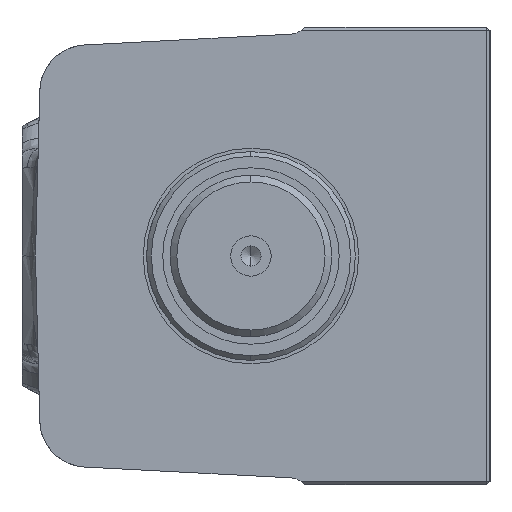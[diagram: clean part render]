
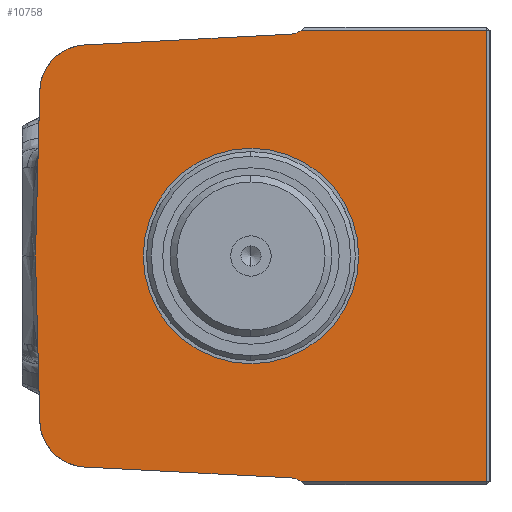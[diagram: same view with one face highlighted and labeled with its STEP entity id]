
A CAD part, left-side view. The second image highlights one B-rep face of the part: STEP entity #10758.
In plain terms, the highlighted planar face has unit normal (-1, 0, 0).
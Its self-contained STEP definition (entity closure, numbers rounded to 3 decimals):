
#47 = AXIS2_PLACEMENT_3D ( 'NONE', #8114, #21503, #10012 ) ;
#97 = AXIS2_PLACEMENT_3D ( 'NONE', #3980, #17413, #5916 ) ;
#106 = CARTESIAN_POINT ( 'NONE',  ( -46.6, -5.85, 32.94 ) ) ;
#494 = ORIENTED_EDGE ( 'NONE', *, *, #20834, .F. ) ;
#627 = ORIENTED_EDGE ( 'NONE', *, *, #16675, .T. ) ;
#751 = DIRECTION ( 'NONE',  ( -1., 0., 0. ) ) ;
#957 = LINE ( 'NONE', #13473, #20732 ) ;
#1080 = CARTESIAN_POINT ( 'NONE',  ( -46.6, 31.978, -0.837 ) ) ;
#1087 = DIRECTION ( 'NONE',  ( -1., 0., 0. ) ) ;
#1210 = EDGE_CURVE ( 'NONE', #23392, #17468, #17424, .T. ) ;
#1309 = CARTESIAN_POINT ( 'NONE',  ( -46.6, -7.444, 33.5 ) ) ;
#1522 = AXIS2_PLACEMENT_3D ( 'NONE', #15316, #3829, #17273 ) ;
#1579 = VERTEX_POINT ( 'NONE', #9738 ) ;
#1872 = CARTESIAN_POINT ( 'NONE',  ( -46.6, 1.706, 32.544 ) ) ;
#1948 = DIRECTION ( 'NONE',  ( 0., -0.999, 0.052 ) ) ;
#1982 = CARTESIAN_POINT ( 'NONE',  ( -46.6, 31.358, -24.53 ) ) ;
#1994 = ORIENTED_EDGE ( 'NONE', *, *, #24376, .T. ) ;
#2038 = CIRCLE ( 'NONE', #7358, 3. ) ;
#3042 = CARTESIAN_POINT ( 'NONE',  ( -46.6, -35., -34. ) ) ;
#3520 = EDGE_CURVE ( 'NONE', #12863, #5373, #957, .T. ) ;
#3761 = VECTOR ( 'NONE', #15223, 1000. ) ;
#3829 = DIRECTION ( 'NONE',  ( 1., 0., 0. ) ) ;
#3934 = ORIENTED_EDGE ( 'NONE', *, *, #4956, .F. ) ;
#3960 = VERTEX_POINT ( 'NONE', #23644 ) ;
#3980 = CARTESIAN_POINT ( 'NONE',  ( -46.6, -35.5, -34. ) ) ;
#4083 = CIRCLE ( 'NONE', #12881, 16. ) ;
#4230 = EDGE_CURVE ( 'NONE', #18953, #1579, #22616, .T. ) ;
#4358 = FACE_OUTER_BOUND ( 'NONE', #19466, .T. ) ;
#4457 = VECTOR ( 'NONE', #11449, 1000. ) ;
#4731 = EDGE_CURVE ( 'NONE', #21776, #23666, #19904, .T. ) ;
#4851 = AXIS2_PLACEMENT_3D ( 'NONE', #12561, #1087, #14515 ) ;
#4863 = DIRECTION ( 'NONE',  ( 0., 0., 1. ) ) ;
#4956 = EDGE_CURVE ( 'NONE', #3960, #8463, #8198, .T. ) ;
#5031 = DIRECTION ( 'NONE',  ( 0., -0.026, -1. ) ) ;
#5210 = VECTOR ( 'NONE', #4863, 1000. ) ;
#5226 = CARTESIAN_POINT ( 'NONE',  ( -46.6, 31.978, 0.837 ) ) ;
#5373 = VERTEX_POINT ( 'NONE', #22098 ) ;
#5416 = CARTESIAN_POINT ( 'NONE',  ( -46.6, -35., -33.5 ) ) ;
#5916 = DIRECTION ( 'NONE',  ( 0., 0., 1. ) ) ;
#6353 = CIRCLE ( 'NONE', #17292, 7. ) ;
#6565 = DIRECTION ( 'NONE',  ( -1., 0., 0. ) ) ;
#6615 = CARTESIAN_POINT ( 'NONE',  ( -46.6, 24.726, -31.337 ) ) ;
#6647 = CIRCLE ( 'NONE', #1522, 7. ) ;
#7352 = CARTESIAN_POINT ( 'NONE',  ( -46.6, -35., 33.5 ) ) ;
#7353 = VECTOR ( 'NONE', #24462, 1000. ) ;
#7358 = AXIS2_PLACEMENT_3D ( 'NONE', #11419, #24810, #13338 ) ;
#7381 = ORIENTED_EDGE ( 'NONE', *, *, #10692, .T. ) ;
#7397 = EDGE_CURVE ( 'NONE', #5373, #19755, #2038, .T. ) ;
#8114 = CARTESIAN_POINT ( 'NONE',  ( -46.6, -5.693, 35.936 ) ) ;
#8198 = CIRCLE ( 'NONE', #4851, 16. ) ;
#8463 = VERTEX_POINT ( 'NONE', #15467 ) ;
#9441 = CARTESIAN_POINT ( 'NONE',  ( -46.6, -35.5, 33.5 ) ) ;
#9716 = LINE ( 'NONE', #1872, #19323 ) ;
#9738 = CARTESIAN_POINT ( 'NONE',  ( -46.6, 31.358, 24.53 ) ) ;
#9760 = ORIENTED_EDGE ( 'NONE', *, *, #4731, .T. ) ;
#9882 = EDGE_CURVE ( 'NONE', #8463, #3960, #4083, .T. ) ;
#10012 = DIRECTION ( 'NONE',  ( 0., 0., 1. ) ) ;
#10036 = ORIENTED_EDGE ( 'NONE', *, *, #7397, .T. ) ;
#10530 = EDGE_LOOP ( 'NONE', ( #3934, #15937 ) ) ;
#10692 = EDGE_CURVE ( 'NONE', #19755, #21776, #19066, .T. ) ;
#10758 = ADVANCED_FACE ( 'NONE', ( #4358, #18475 ), #24830, .T. ) ;
#11354 = VERTEX_POINT ( 'NONE', #16326 ) ;
#11419 = CARTESIAN_POINT ( 'NONE',  ( -46.6, -5.693, -35.936 ) ) ;
#11449 = DIRECTION ( 'NONE',  ( 0., 1., 0. ) ) ;
#11872 = ORIENTED_EDGE ( 'NONE', *, *, #22819, .T. ) ;
#12012 = ORIENTED_EDGE ( 'NONE', *, *, #12568, .F. ) ;
#12226 = CARTESIAN_POINT ( 'NONE',  ( -46.6, 0., 0. ) ) ;
#12340 = LINE ( 'NONE', #1080, #21948 ) ;
#12561 = CARTESIAN_POINT ( 'NONE',  ( -46.6, 0., 0. ) ) ;
#12568 = EDGE_CURVE ( 'NONE', #12863, #17880, #6647, .T. ) ;
#12863 = VERTEX_POINT ( 'NONE', #6615 ) ;
#12881 = AXIS2_PLACEMENT_3D ( 'NONE', #12226, #751, #14174 ) ;
#13283 = CARTESIAN_POINT ( 'NONE',  ( -46.6, -35.5, -33.5 ) ) ;
#13338 = DIRECTION ( 'NONE',  ( 0., 0., 1. ) ) ;
#13366 = ORIENTED_EDGE ( 'NONE', *, *, #1210, .T. ) ;
#13473 = CARTESIAN_POINT ( 'NONE',  ( -46.6, 1.706, -32.544 ) ) ;
#14174 = DIRECTION ( 'NONE',  ( 0., -1., 0. ) ) ;
#14515 = DIRECTION ( 'NONE',  ( 0., -1., 0. ) ) ;
#15223 = DIRECTION ( 'NONE',  ( 0., -1., 0. ) ) ;
#15316 = CARTESIAN_POINT ( 'NONE',  ( -46.6, 24.36, -24.347 ) ) ;
#15467 = CARTESIAN_POINT ( 'NONE',  ( -46.6, 16., 0. ) ) ;
#15937 = ORIENTED_EDGE ( 'NONE', *, *, #9882, .F. ) ;
#16326 = CARTESIAN_POINT ( 'NONE',  ( -46.6, 24.726, 31.337 ) ) ;
#16675 = EDGE_CURVE ( 'NONE', #18953, #17880, #12340, .T. ) ;
#17273 = DIRECTION ( 'NONE',  ( 0., 0., 1. ) ) ;
#17292 = AXIS2_PLACEMENT_3D ( 'NONE', #18037, #6565, #19953 ) ;
#17413 = DIRECTION ( 'NONE',  ( -1., 0., 0. ) ) ;
#17424 = CIRCLE ( 'NONE', #47, 3. ) ;
#17468 = VERTEX_POINT ( 'NONE', #106 ) ;
#17602 = ORIENTED_EDGE ( 'NONE', *, *, #4230, .F. ) ;
#17691 = CARTESIAN_POINT ( 'NONE',  ( -46.6, 32., 0. ) ) ;
#17880 = VERTEX_POINT ( 'NONE', #1982 ) ;
#18037 = CARTESIAN_POINT ( 'NONE',  ( -46.6, 24.36, 24.347 ) ) ;
#18475 = FACE_BOUND ( 'NONE', #10530, .T. ) ;
#18953 = VERTEX_POINT ( 'NONE', #17691 ) ;
#19066 = LINE ( 'NONE', #13283, #3761 ) ;
#19323 = VECTOR ( 'NONE', #1948, 1000. ) ;
#19466 = EDGE_LOOP ( 'NONE', ( #10036, #7381, #9760, #1994, #13366, #494, #11872, #17602, #627, #12012, #19531 ) ) ;
#19531 = ORIENTED_EDGE ( 'NONE', *, *, #3520, .T. ) ;
#19755 = VERTEX_POINT ( 'NONE', #23863 ) ;
#19904 = LINE ( 'NONE', #3042, #5210 ) ;
#19953 = DIRECTION ( 'NONE',  ( 0., 0., 1. ) ) ;
#20732 = VECTOR ( 'NONE', #23028, 1000. ) ;
#20834 = EDGE_CURVE ( 'NONE', #11354, #17468, #9716, .T. ) ;
#21503 = DIRECTION ( 'NONE',  ( 1., 0., 0. ) ) ;
#21776 = VERTEX_POINT ( 'NONE', #5416 ) ;
#21948 = VECTOR ( 'NONE', #5031, 1000. ) ;
#22098 = CARTESIAN_POINT ( 'NONE',  ( -46.6, -5.85, -32.94 ) ) ;
#22616 = LINE ( 'NONE', #5226, #7353 ) ;
#22819 = EDGE_CURVE ( 'NONE', #11354, #1579, #6353, .T. ) ;
#23028 = DIRECTION ( 'NONE',  ( 0., -0.999, -0.052 ) ) ;
#23392 = VERTEX_POINT ( 'NONE', #1309 ) ;
#23644 = CARTESIAN_POINT ( 'NONE',  ( -46.6, -16., 0. ) ) ;
#23666 = VERTEX_POINT ( 'NONE', #7352 ) ;
#23863 = CARTESIAN_POINT ( 'NONE',  ( -46.6, -7.444, -33.5 ) ) ;
#24376 = EDGE_CURVE ( 'NONE', #23666, #23392, #24811, .T. ) ;
#24462 = DIRECTION ( 'NONE',  ( 0., -0.026, 1. ) ) ;
#24810 = DIRECTION ( 'NONE',  ( 1., 0., 0. ) ) ;
#24811 = LINE ( 'NONE', #9441, #4457 ) ;
#24830 = PLANE ( 'NONE',  #97 ) ;
